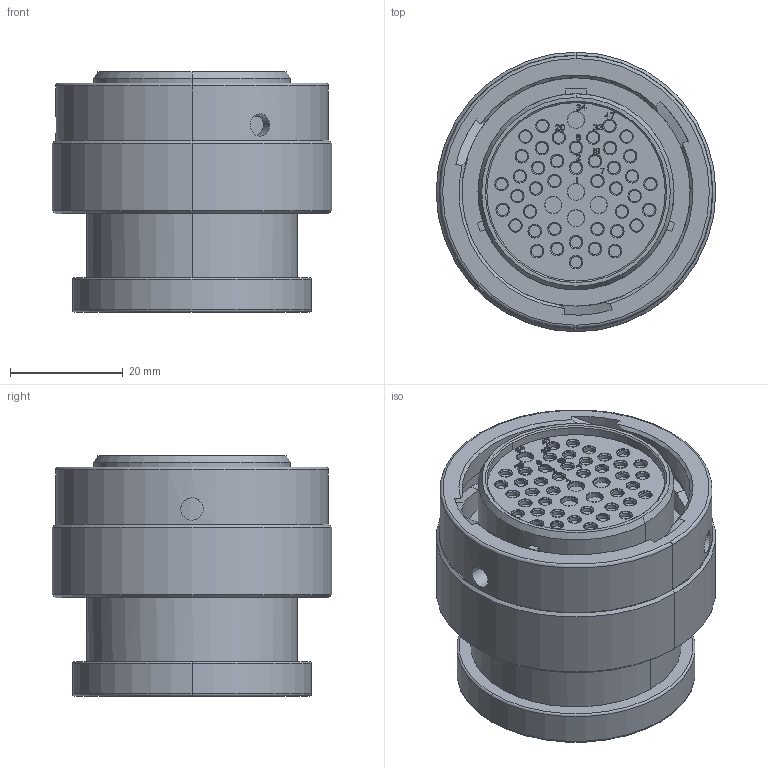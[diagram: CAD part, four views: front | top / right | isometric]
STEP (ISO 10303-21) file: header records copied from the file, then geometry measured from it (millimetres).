
FILE_DESCRIPTION((''),'2;1');
FILE_NAME('C-HDP26-24-47SE-L017','2013-06-27T',('workeradm'),('Tyco Electronics Ltd.'),'PRO/ENGINEER BY PARAMETRIC TECHNOLOGY CORPORATION, 2011490','PRO/ENGINEER BY PARAMETRIC TECHNOLOGY CORPORATION, 2011490','');
FILE_SCHEMA(('AUTOMOTIVE_DESIGN { 1 0 10303 214 1 1 1 1 }'));
Length unit declared in the file: millimetre
Products named in the file (1): C-HDP26-24-47SE-L017
Bounding box: 49.53 x 49.53 x 42.55 mm (x, y, z)
Volume: 55171.6 mm3; surface area: 15742.2 mm2
Topology: 1 solids, 1 shells, 1302 faces, 3092 edges, 1959 vertices
Faces by surface type: plane 641, cylinder 418, cone 105, torus 94, bspline 44
Entity records: 39906 total; most frequent: CARTESIAN_POINT 8906, DIRECTION 6546, ORIENTED_EDGE 6184, EDGE_CURVE 3092, AXIS2_PLACEMENT_3D 2301, VERTEX_POINT 1959, VECTOR 1944, LINE 1944
